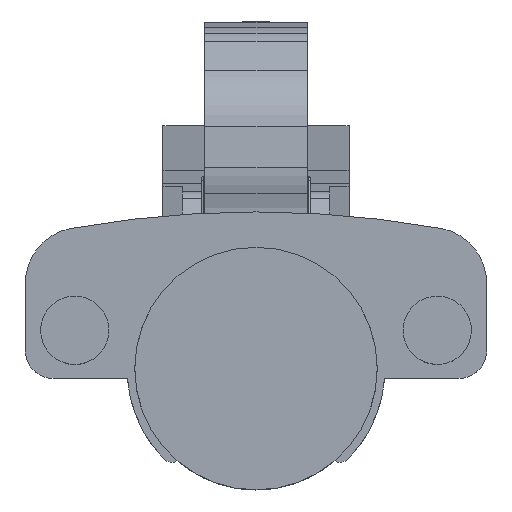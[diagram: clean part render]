
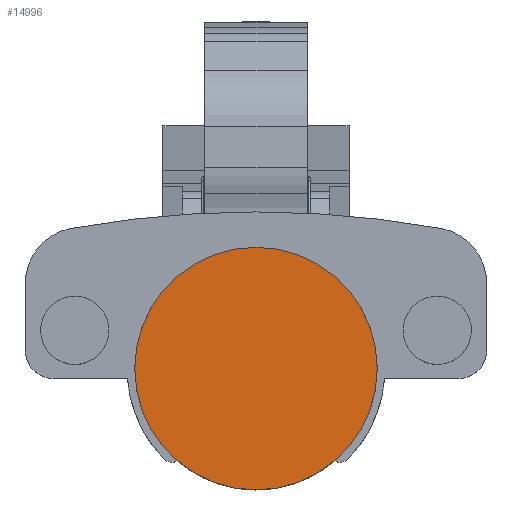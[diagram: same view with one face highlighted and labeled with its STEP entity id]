
A CAD part, top view. The second image highlights one B-rep face of the part: STEP entity #14996.
In plain terms, the highlighted planar face has unit normal (0, 0, 1).
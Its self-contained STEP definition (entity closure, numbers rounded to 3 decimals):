
#403 = EDGE_CURVE ( 'NONE', #23167, #2348, #2967, .T. ) ;
#2348 = VERTEX_POINT ( 'NONE', #13910 ) ;
#2876 = CARTESIAN_POINT ( 'NONE',  ( 0., 5.722, 14.008 ) ) ;
#2967 = CIRCLE ( 'NONE', #23405, 17.4 ) ;
#3889 = PLANE ( 'NONE',  #6491 ) ;
#4418 = CARTESIAN_POINT ( 'NONE',  ( 0., 5.722, 14.008 ) ) ;
#5706 = DIRECTION ( 'NONE',  ( 1., 0., 0. ) ) ;
#6491 = AXIS2_PLACEMENT_3D ( 'NONE', #7667, #19569, #5706 ) ;
#7129 = ORIENTED_EDGE ( 'NONE', *, *, #12365, .T. ) ;
#7667 = CARTESIAN_POINT ( 'NONE',  ( -10.55, 14.368, 14.008 ) ) ;
#10313 = CARTESIAN_POINT ( 'NONE',  ( 0., 23.122, 14.008 ) ) ;
#12365 = EDGE_CURVE ( 'NONE', #2348, #23167, #23784, .T. ) ;
#13361 = AXIS2_PLACEMENT_3D ( 'NONE', #2876, #15288, #18826 ) ;
#13801 = FACE_OUTER_BOUND ( 'NONE', #22064, .T. ) ;
#13910 = CARTESIAN_POINT ( 'NONE',  ( 0., -11.678, 14.008 ) ) ;
#14996 = ADVANCED_FACE ( 'NONE', ( #13801 ), #3889, .T. ) ;
#15288 = DIRECTION ( 'NONE',  ( 0., 0., 1. ) ) ;
#18826 = DIRECTION ( 'NONE',  ( 1., 0., 0. ) ) ;
#19569 = DIRECTION ( 'NONE',  ( 0., 0., 1. ) ) ;
#20365 = DIRECTION ( 'NONE',  ( 0., 0., 1. ) ) ;
#20559 = ORIENTED_EDGE ( 'NONE', *, *, #403, .T. ) ;
#22064 = EDGE_LOOP ( 'NONE', ( #7129, #20559 ) ) ;
#22326 = DIRECTION ( 'NONE',  ( 1., 0., 0. ) ) ;
#23167 = VERTEX_POINT ( 'NONE', #10313 ) ;
#23405 = AXIS2_PLACEMENT_3D ( 'NONE', #4418, #20365, #22326 ) ;
#23784 = CIRCLE ( 'NONE', #13361, 17.4 ) ;
